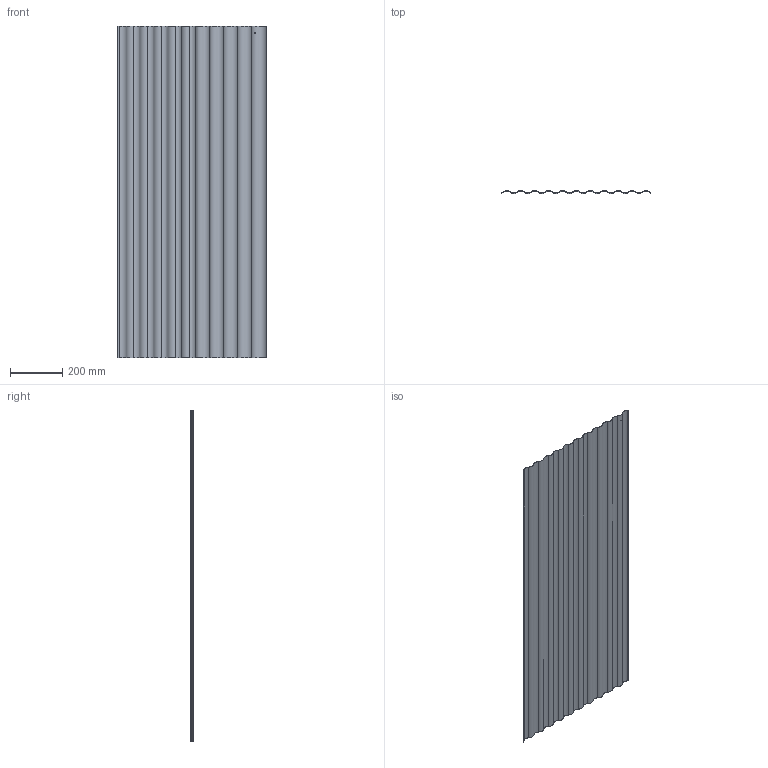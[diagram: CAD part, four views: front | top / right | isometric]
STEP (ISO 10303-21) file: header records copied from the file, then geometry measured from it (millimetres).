
FILE_DESCRIPTION (( 'STEP AP203' ), '1' );
FILE_NAME ('CORRIGATED MS380.STEP', '2018-06-14T15:14:11', ( 'Michael Moliner' ), ( '' ), 'SwSTEP 2.0', 'SolidWorks 2018', '' );
FILE_SCHEMA (( 'CONFIG_CONTROL_DESIGN' ));
Length unit declared in the file: inch
Products named in the file (2): CORRIGATED MS380
Bounding box: 574.67 x 10.03 x 1270 mm (x, y, z)
Volume: 402024.1 mm3; surface area: 1584761.8 mm2
Topology: 1 solids, 1 shells, 52 faces, 150 edges, 100 vertices
Faces by surface type: cylinder 48, plane 4
Entity records: 2023 total; most frequent: CARTESIAN_POINT 408, DIRECTION 346, ORIENTED_EDGE 300, EDGE_CURVE 150, AXIS2_PLACEMENT_3D 146, VERTEX_POINT 100, CIRCLE 92, LINE 54
